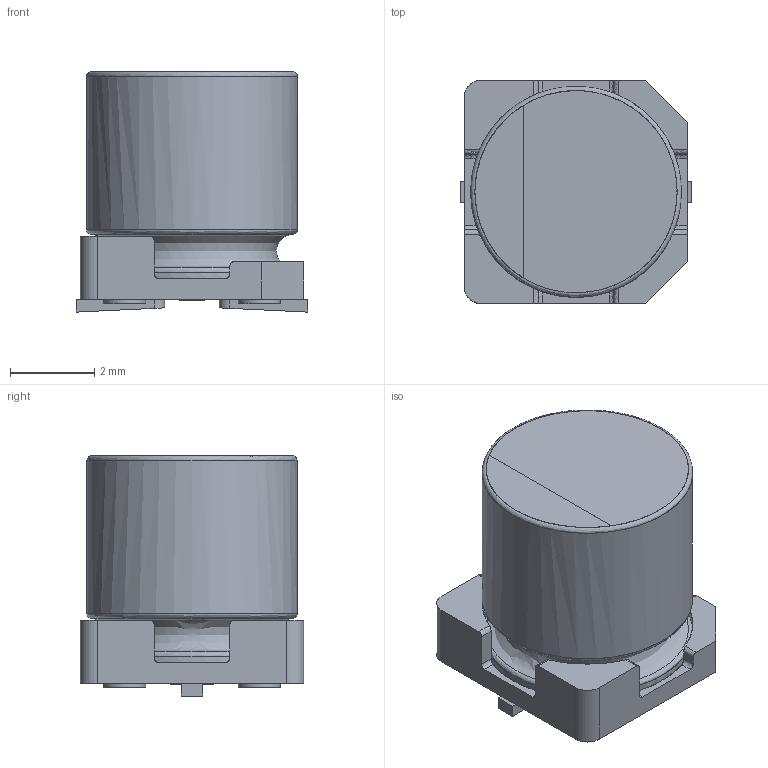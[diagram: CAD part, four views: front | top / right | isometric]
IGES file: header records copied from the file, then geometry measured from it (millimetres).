
Start section: JAMA-IS VERSION  1.0
Bounding box: 5.5 x 5.3 x 5.7 mm (x, y, z)
Surface area: 216.7 mm2 (no closed solid volume)
Topology: 0 solids, 0 shells, 81 faces, 944 edges, 926 vertices
Faces by surface type: bspline 81
